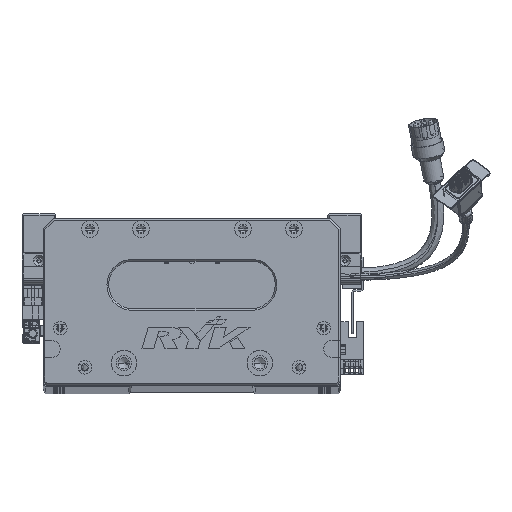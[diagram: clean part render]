
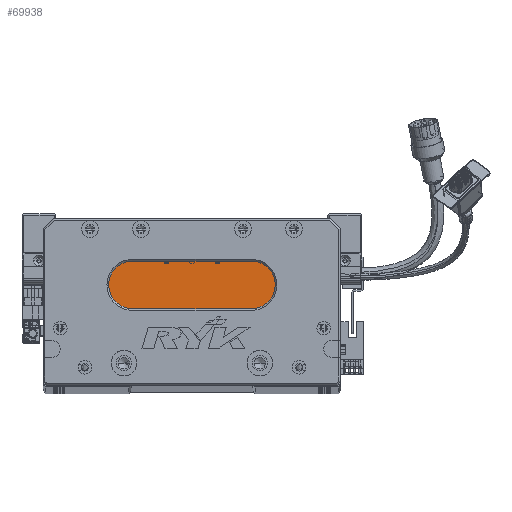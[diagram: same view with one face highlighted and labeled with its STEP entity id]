
A CAD part, top view. The second image highlights one B-rep face of the part: STEP entity #69938.
In plain terms, the highlighted planar face has unit normal (0, 0, 1) as drawn and (0, 0, -1) by its records, which use the part's own axes.
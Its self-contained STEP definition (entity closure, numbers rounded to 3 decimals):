
#1659 = ORIENTED_EDGE ( 'NONE', *, *, #49831, .T. ) ;
#3190 = DIRECTION ( 'NONE',  ( -1., 0., 0. ) ) ;
#3765 = AXIS2_PLACEMENT_3D ( 'NONE', #108428, #90470, #53657 ) ;
#8498 = ORIENTED_EDGE ( 'NONE', *, *, #85175, .T. ) ;
#8814 = CARTESIAN_POINT ( 'NONE',  ( 122.5, 73., 18. ) ) ;
#9432 = CIRCLE ( 'NONE', #45284, 14. ) ;
#14808 = VERTEX_POINT ( 'NONE', #31769 ) ;
#24181 = EDGE_CURVE ( 'NONE', #34405, #53123, #37884, .T. ) ;
#24386 = EDGE_LOOP ( 'NONE', ( #1659, #96764, #53550, #56191, #8498 ) ) ;
#27200 = PLANE ( 'NONE',  #3765 ) ;
#30291 = CARTESIAN_POINT ( 'NONE',  ( 122.5, 45., 18. ) ) ;
#31769 = CARTESIAN_POINT ( 'NONE',  ( 122.5, 45., 18. ) ) ;
#33759 = LINE ( 'NONE', #30291, #49462 ) ;
#34405 = VERTEX_POINT ( 'NONE', #85366 ) ;
#35373 = DIRECTION ( 'NONE',  ( 0., 0., -1. ) ) ;
#35775 = DIRECTION ( 'NONE',  ( -1., 0., 0. ) ) ;
#36867 = CARTESIAN_POINT ( 'NONE',  ( 38.5, 59., 18. ) ) ;
#37884 = CIRCLE ( 'NONE', #111905, 14. ) ;
#38494 = VECTOR ( 'NONE', #55314, 1000. ) ;
#39759 = EDGE_CURVE ( 'NONE', #14808, #34405, #33759, .T. ) ;
#39824 = FACE_OUTER_BOUND ( 'NONE', #24386, .T. ) ;
#39848 = DIRECTION ( 'NONE',  ( -1., 0., 0. ) ) ;
#44929 = CARTESIAN_POINT ( 'NONE',  ( 122.5, 73., 18. ) ) ;
#45284 = AXIS2_PLACEMENT_3D ( 'NONE', #67083, #111481, #84726 ) ;
#49052 = AXIS2_PLACEMENT_3D ( 'NONE', #53402, #102197, #3190 ) ;
#49462 = VECTOR ( 'NONE', #39848, 1000. ) ;
#49831 = EDGE_CURVE ( 'NONE', #83094, #14808, #108006, .T. ) ;
#53123 = VERTEX_POINT ( 'NONE', #36867 ) ;
#53402 = CARTESIAN_POINT ( 'NONE',  ( 122.5, 59., 18. ) ) ;
#53550 = ORIENTED_EDGE ( 'NONE', *, *, #24181, .T. ) ;
#53657 = DIRECTION ( 'NONE',  ( -1., 0., 0. ) ) ;
#55314 = DIRECTION ( 'NONE',  ( 1., 0., 0. ) ) ;
#56191 = ORIENTED_EDGE ( 'NONE', *, *, #79763, .T. ) ;
#67083 = CARTESIAN_POINT ( 'NONE',  ( 52.5, 59., 18. ) ) ;
#69938 = ADVANCED_FACE ( 'NONE', ( #39824 ), #27200, .T. ) ;
#70107 = VERTEX_POINT ( 'NONE', #112371 ) ;
#79763 = EDGE_CURVE ( 'NONE', #53123, #70107, #9432, .T. ) ;
#83094 = VERTEX_POINT ( 'NONE', #8814 ) ;
#84726 = DIRECTION ( 'NONE',  ( -1., 0., 0. ) ) ;
#85175 = EDGE_CURVE ( 'NONE', #70107, #83094, #98641, .T. ) ;
#85366 = CARTESIAN_POINT ( 'NONE',  ( 52.5, 45., 18. ) ) ;
#90470 = DIRECTION ( 'NONE',  ( 0., 0., -1. ) ) ;
#96764 = ORIENTED_EDGE ( 'NONE', *, *, #39759, .T. ) ;
#98641 = LINE ( 'NONE', #44929, #38494 ) ;
#99040 = CARTESIAN_POINT ( 'NONE',  ( 52.5, 59., 18. ) ) ;
#102197 = DIRECTION ( 'NONE',  ( 0., 0., -1. ) ) ;
#108006 = CIRCLE ( 'NONE', #49052, 14. ) ;
#108428 = CARTESIAN_POINT ( 'NONE',  ( 122.5, 59., 18. ) ) ;
#111481 = DIRECTION ( 'NONE',  ( 0., 0., -1. ) ) ;
#111905 = AXIS2_PLACEMENT_3D ( 'NONE', #99040, #35373, #35775 ) ;
#112371 = CARTESIAN_POINT ( 'NONE',  ( 52.5, 73., 18. ) ) ;
